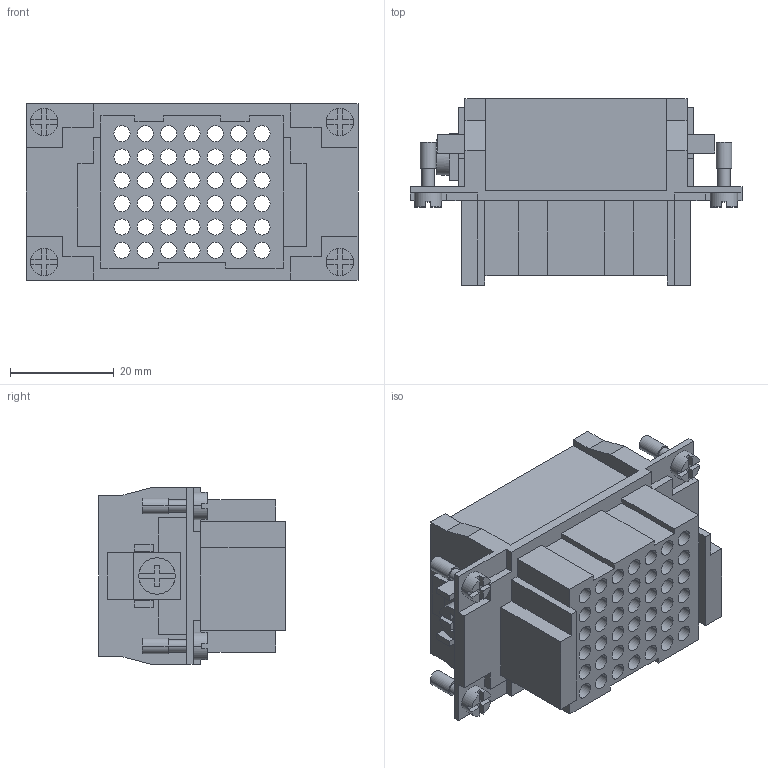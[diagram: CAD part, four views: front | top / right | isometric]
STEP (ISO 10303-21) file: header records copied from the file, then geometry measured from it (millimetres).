
FILE_DESCRIPTION (( 'STEP AP203' ), '1' );
FILE_NAME ('352233.STEP', '2025-06-26T08:15:35', ( '' ), ( '' ), 'SwSTEP 2.0', 'SolidWorks 2018', '' );
FILE_SCHEMA (( 'CONFIG_CONTROL_DESIGN' ));
Length unit declared in the file: millimetre
Products named in the file (1): 352233
Bounding box: 64 x 36 x 34 mm (x, y, z)
Volume: 31794.8 mm3; surface area: 25415.4 mm2
Topology: 1 solids, 1 shells, 561 faces, 1376 edges, 916 vertices
Faces by surface type: plane 281, cylinder 280
Entity records: 16999 total; most frequent: DIRECTION 3096, CARTESIAN_POINT 2854, ORIENTED_EDGE 2752, EDGE_CURVE 1376, AXIS2_PLACEMENT_3D 1158, VERTEX_POINT 916, VECTOR 780, LINE 780
